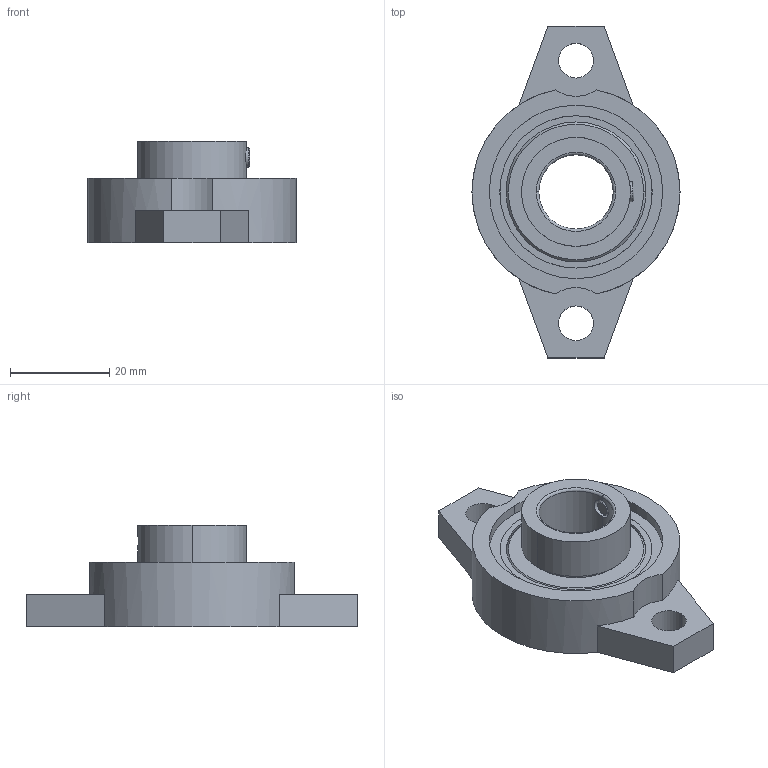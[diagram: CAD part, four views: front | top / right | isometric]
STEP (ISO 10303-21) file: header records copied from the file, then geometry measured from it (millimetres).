
FILE_DESCRIPTION (( 'STEP AP214' ), '1' );
FILE_NAME ('4.0012 Laakeri USBFL 002 JIB.STEP', '2025-09-24T07:22:20', ( '' ), ( '' ), 'SwSTEP 2.0', 'SolidWorks 2025', '' );
FILE_SCHEMA (( 'AUTOMOTIVE_DESIGN' ));
Length unit declared in the file: millimetre
Products named in the file (1): 4.0012 Laakeri USBFL 002 JIB
Bounding box: 42 x 67 x 20.5 mm (x, y, z)
Volume: 15645.6 mm3; surface area: 12566.5 mm2
Topology: 2 solids, 2 shells, 189 faces, 583 edges, 376 vertices
Faces by surface type: sphere 56, torus 48, cylinder 44, plane 31, cone 10
Entity records: 13932 total; most frequent: CARTESIAN_POINT 8869, ORIENTED_EDGE 1140, DIRECTION 944, EDGE_CURVE 570, AXIS2_PLACEMENT_3D 424, VERTEX_POINT 369, B_SPLINE_CURVE_WITH_KNOTS 240, CIRCLE 234
